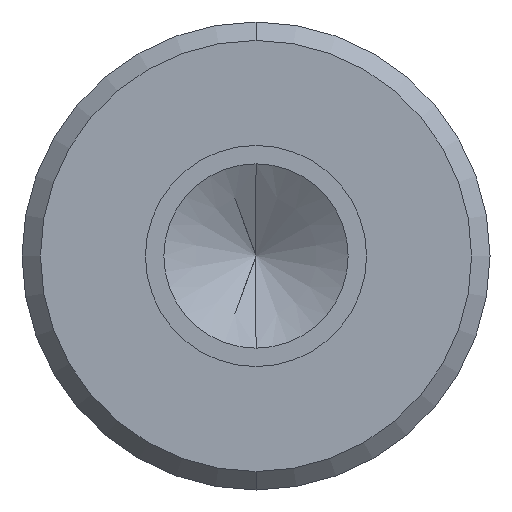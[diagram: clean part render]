
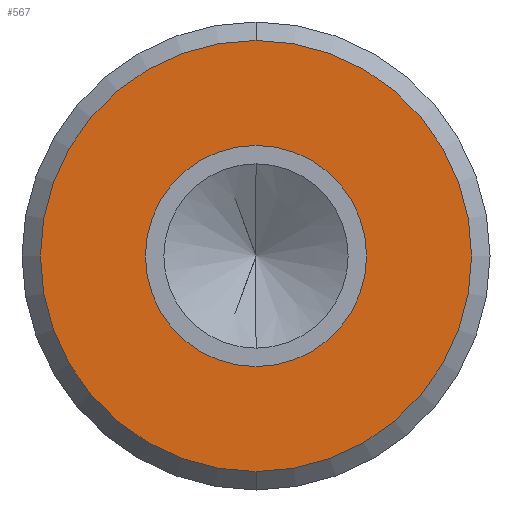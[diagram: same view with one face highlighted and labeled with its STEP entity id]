
A CAD part, front view. The second image highlights one B-rep face of the part: STEP entity #567.
In plain terms, the highlighted planar face has unit normal (0, -1, 0).
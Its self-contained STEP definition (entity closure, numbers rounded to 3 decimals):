
#26 = VERTEX_POINT ( 'NONE', #129 ) ;
#35 = DIRECTION ( 'NONE',  ( 0., -1., 0. ) ) ;
#48 = CIRCLE ( 'NONE', #549, 5.85 ) ;
#110 = CARTESIAN_POINT ( 'NONE',  ( 0., 0., 5.85 ) ) ;
#129 = CARTESIAN_POINT ( 'NONE',  ( 0., 0., -5.85 ) ) ;
#132 = EDGE_LOOP ( 'NONE', ( #219, #306 ) ) ;
#147 = PLANE ( 'NONE',  #483 ) ;
#164 = DIRECTION ( 'NONE',  ( 0., 0., -1. ) ) ;
#169 = CIRCLE ( 'NONE', #352, 3. ) ;
#176 = ORIENTED_EDGE ( 'NONE', *, *, #488, .T. ) ;
#178 = VERTEX_POINT ( 'NONE', #495 ) ;
#184 = DIRECTION ( 'NONE',  ( 0., -1., 0. ) ) ;
#186 = ORIENTED_EDGE ( 'NONE', *, *, #345, .T. ) ;
#193 = CIRCLE ( 'NONE', #203, 5.85 ) ;
#197 = VERTEX_POINT ( 'NONE', #110 ) ;
#201 = DIRECTION ( 'NONE',  ( 0., 0., 1. ) ) ;
#202 = VERTEX_POINT ( 'NONE', #392 ) ;
#203 = AXIS2_PLACEMENT_3D ( 'NONE', #562, #184, #610 ) ;
#219 = ORIENTED_EDGE ( 'NONE', *, *, #375, .F. ) ;
#291 = CARTESIAN_POINT ( 'NONE',  ( 0., 0., 0. ) ) ;
#294 = FACE_OUTER_BOUND ( 'NONE', #534, .T. ) ;
#306 = ORIENTED_EDGE ( 'NONE', *, *, #600, .F. ) ;
#340 = CARTESIAN_POINT ( 'NONE',  ( 0., 0., 0. ) ) ;
#345 = EDGE_CURVE ( 'NONE', #26, #197, #193, .T. ) ;
#352 = AXIS2_PLACEMENT_3D ( 'NONE', #340, #535, #480 ) ;
#370 = CARTESIAN_POINT ( 'NONE',  ( 0., 0., 0. ) ) ;
#375 = EDGE_CURVE ( 'NONE', #202, #178, #558, .T. ) ;
#392 = CARTESIAN_POINT ( 'NONE',  ( 0., 0., -3. ) ) ;
#408 = DIRECTION ( 'NONE',  ( 0., 0., 1. ) ) ;
#432 = AXIS2_PLACEMENT_3D ( 'NONE', #506, #591, #164 ) ;
#480 = DIRECTION ( 'NONE',  ( 0., 0., -1. ) ) ;
#483 = AXIS2_PLACEMENT_3D ( 'NONE', #291, #573, #201 ) ;
#488 = EDGE_CURVE ( 'NONE', #197, #26, #48, .T. ) ;
#490 = FACE_BOUND ( 'NONE', #132, .T. ) ;
#495 = CARTESIAN_POINT ( 'NONE',  ( 0., 0., 3. ) ) ;
#506 = CARTESIAN_POINT ( 'NONE',  ( 0., 0., 0. ) ) ;
#534 = EDGE_LOOP ( 'NONE', ( #176, #186 ) ) ;
#535 = DIRECTION ( 'NONE',  ( 0., -1., 0. ) ) ;
#549 = AXIS2_PLACEMENT_3D ( 'NONE', #370, #35, #408 ) ;
#558 = CIRCLE ( 'NONE', #432, 3. ) ;
#562 = CARTESIAN_POINT ( 'NONE',  ( 0., 0., 0. ) ) ;
#567 = ADVANCED_FACE ( 'NONE', ( #294, #490 ), #147, .F. ) ;
#573 = DIRECTION ( 'NONE',  ( 0., 1., 0. ) ) ;
#591 = DIRECTION ( 'NONE',  ( 0., -1., 0. ) ) ;
#600 = EDGE_CURVE ( 'NONE', #178, #202, #169, .T. ) ;
#610 = DIRECTION ( 'NONE',  ( 0., 0., 1. ) ) ;
